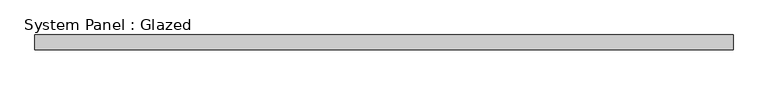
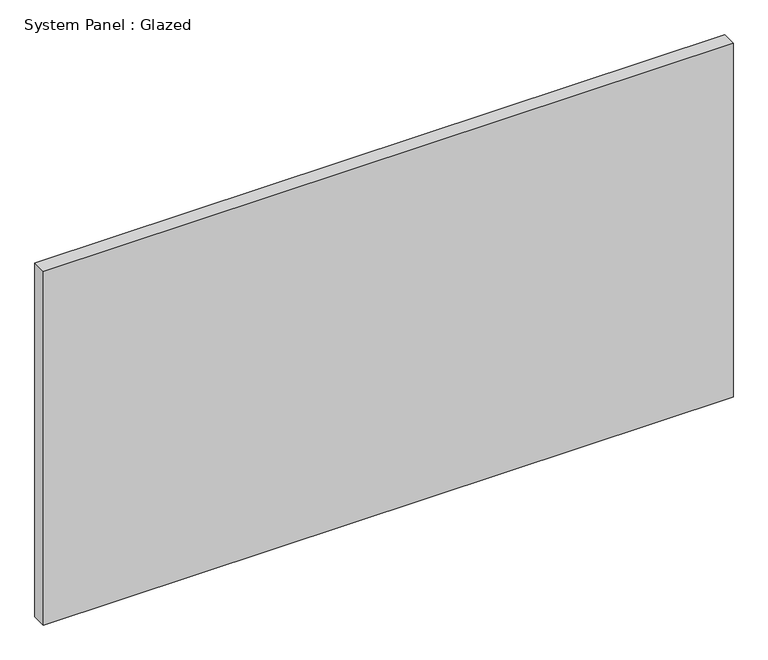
"""IFC4 building model written with IfcOpenShell, lengths in millimetres: plate geometry, System Panel : Glazed."""

from ifc_helpers import new_model, si_unit, origin, origin_with_axes, place, context, project, spatial, polyline, outline, extrude, source, transform, mapped, element, save


def system_panel_glazed_4d9555e5(model_context):
    return source(origin(), model_context, "Body", "SweptSolid", [
        extrude(outline(polyline([(600.075, -44.45), (-600.075, -44.45), (-600.075, -19.05), (600.075, -19.05), (600.075, -44.45)])), origin_with_axes(), (0.0, 0.0, 1.0), 650.875),
    ])


if __name__ == "__main__":
    model = new_model("IFC4")
    model_context = context("Model", 3, world=origin())
    ifc_project = project(units=[si_unit("LENGTHUNIT", "METRE", prefix="MILLI")], contexts=[model_context])
    site = spatial("IfcSite", under=ifc_project)
    building = spatial("IfcBuilding", under=site)
    placement = place(None, origin())
    system_panel_glazed_shape = system_panel_glazed_4d9555e5(model_context)
    element("IfcPlate", 1, ObjectType="System Panel : Glazed", at=placement, inside=building, context=model_context, shape_type="MappedRepresentation", body=[
        mapped(system_panel_glazed_shape, transform((0.0, 0.0, 0.0), x_axis=(1.0, 0.0, 0.0), y_axis=(0.0, 1.0, 0.0), z_axis=(0.0, 0.0, 1.0))),
    ])
    save(model, "model.ifc")
